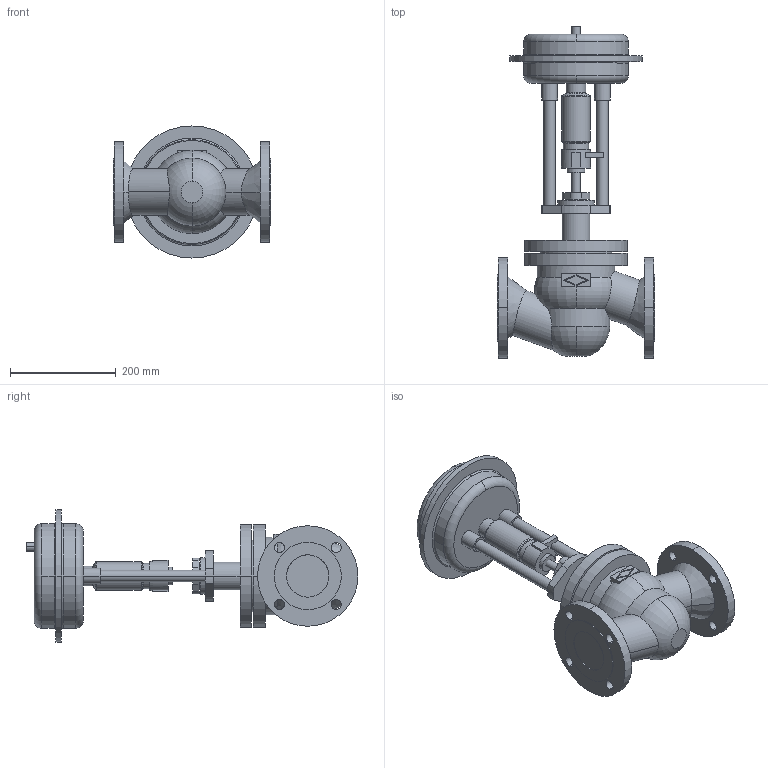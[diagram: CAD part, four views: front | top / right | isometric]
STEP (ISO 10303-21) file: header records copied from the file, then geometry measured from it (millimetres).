
FILE_DESCRIPTION( ( '' ), '1' );
FILE_NAME( 'F:/DE-SHS/TB/OR/04-Sonstiges/daten/files_3d/470-471_ANSI/470_ANSI150/c000005814.stp', '2015-10-22T06:16:06', ( '' ), ( '' ), ' ', ' ', ' ' );
FILE_SCHEMA( ( 'CONFIG_CONTROL_DESIGN' ) );
Length unit declared in the file: millimetre
Products named in the file (2): 1; 2
Bounding box: 298 x 628 x 250 mm (x, y, z)
Volume: 9591370 mm3; surface area: 585907.1 mm2
Topology: 2 solids, 2 shells, 186 faces, 468 edges, 313 vertices
Faces by surface type: cylinder 86, plane 71, torus 21, cone 8
Entity records: 6406 total; most frequent: CARTESIAN_POINT 1579, DIRECTION 1082, ORIENTED_EDGE 936, EDGE_CURVE 468, AXIS2_PLACEMENT_3D 444, VERTEX_POINT 313, CIRCLE 256, EDGE_LOOP 229
